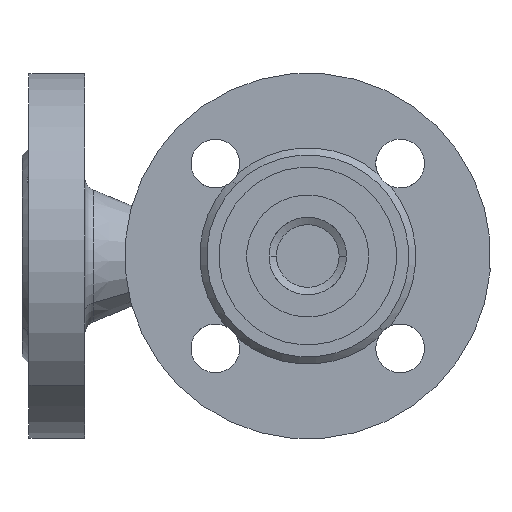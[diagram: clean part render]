
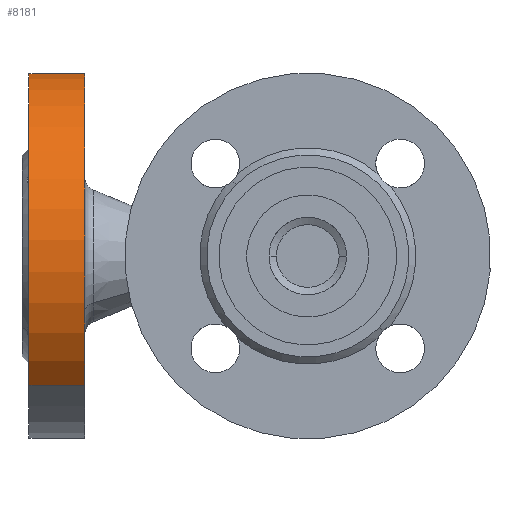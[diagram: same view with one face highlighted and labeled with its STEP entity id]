
A CAD part, front view. The second image highlights one B-rep face of the part: STEP entity #8181.
In plain terms, the highlighted cylindrical face has radius 52.5 mm (diameter 105 mm), a partial arc.
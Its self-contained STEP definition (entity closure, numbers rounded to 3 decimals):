
#2019 = ORIENTED_EDGE ( 'NONE', *, *, #11634, .F. ) ;
#2517 = VERTEX_POINT ( 'NONE', #2823 ) ;
#2662 = EDGE_CURVE ( 'NONE', #2517, #5282, #2895, .T. ) ;
#2823 = CARTESIAN_POINT ( 'NONE',  ( -52.5, 2., 0. ) ) ;
#2895 = CIRCLE ( 'NONE', #2896, 52.5 ) ;
#2896 = AXIS2_PLACEMENT_3D ( 'NONE', #2897, #2898, #2899 ) ;
#2897 = CARTESIAN_POINT ( 'NONE',  ( 0., 2., 0. ) ) ;
#2898 = DIRECTION ( 'NONE',  ( 0., 1., 0. ) ) ;
#2899 = DIRECTION ( 'NONE',  ( -1., 0., 0. ) ) ;
#5282 = VERTEX_POINT ( 'NONE', #5700 ) ;
#5700 = CARTESIAN_POINT ( 'NONE',  ( 52.5, 2., 0. ) ) ;
#5961 = ORIENTED_EDGE ( 'NONE', *, *, #7466, .T. ) ;
#6871 = EDGE_CURVE ( 'NONE', #2517, #11606, #9320, .T. ) ;
#7321 = VERTEX_POINT ( 'NONE', #9536 ) ;
#7429 = ORIENTED_EDGE ( 'NONE', *, *, #2662, .T. ) ;
#7466 = EDGE_CURVE ( 'NONE', #5282, #7321, #9616, .T. ) ;
#7896 = CARTESIAN_POINT ( 'NONE',  ( -52.5, 18., 0. ) ) ;
#7941 = EDGE_LOOP ( 'NONE', ( #7429, #5961, #2019, #11534 ) ) ;
#8088 = CIRCLE ( 'NONE', #8089, 52.5 ) ;
#8089 = AXIS2_PLACEMENT_3D ( 'NONE', #8090, #8094, #8095 ) ;
#8090 = CARTESIAN_POINT ( 'NONE',  ( 0., 18., 0. ) ) ;
#8094 = DIRECTION ( 'NONE',  ( 0., 1., 0. ) ) ;
#8095 = DIRECTION ( 'NONE',  ( -1., 0., 0. ) ) ;
#8181 = ADVANCED_FACE ( 'NONE', ( #10306 ), #10307, .T. ) ;
#9320 = LINE ( 'NONE', #9321, #9322 ) ;
#9321 = CARTESIAN_POINT ( 'NONE',  ( -52.5, 75., 0. ) ) ;
#9322 = VECTOR ( 'NONE', #9325, 1000. ) ;
#9325 = DIRECTION ( 'NONE',  ( 0., 1., 0. ) ) ;
#9536 = CARTESIAN_POINT ( 'NONE',  ( 52.5, 18., 0. ) ) ;
#9616 = LINE ( 'NONE', #9617, #9618 ) ;
#9617 = CARTESIAN_POINT ( 'NONE',  ( 52.5, 75., 0. ) ) ;
#9618 = VECTOR ( 'NONE', #9619, 1000. ) ;
#9619 = DIRECTION ( 'NONE',  ( 0., 1., 0. ) ) ;
#10306 = FACE_OUTER_BOUND ( 'NONE', #7941, .T. ) ;
#10307 = CYLINDRICAL_SURFACE ( 'NONE', #10308, 52.5 ) ;
#10308 = AXIS2_PLACEMENT_3D ( 'NONE', #10309, #10310, #10311 ) ;
#10309 = CARTESIAN_POINT ( 'NONE',  ( 0., 75., 0. ) ) ;
#10310 = DIRECTION ( 'NONE',  ( 0., 1., 0. ) ) ;
#10311 = DIRECTION ( 'NONE',  ( -1., 0., 0. ) ) ;
#11534 = ORIENTED_EDGE ( 'NONE', *, *, #6871, .F. ) ;
#11606 = VERTEX_POINT ( 'NONE', #7896 ) ;
#11634 = EDGE_CURVE ( 'NONE', #11606, #7321, #8088, .T. ) ;
